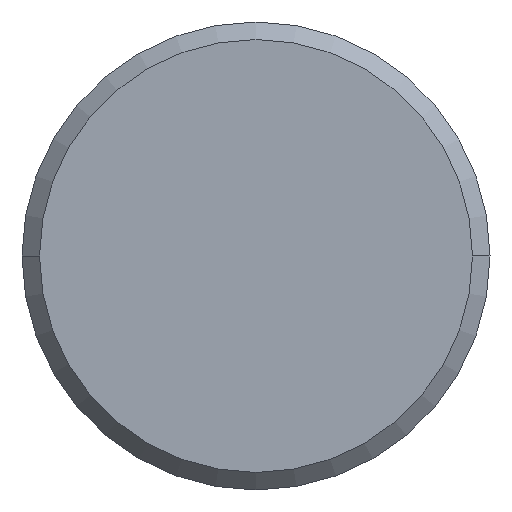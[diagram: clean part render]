
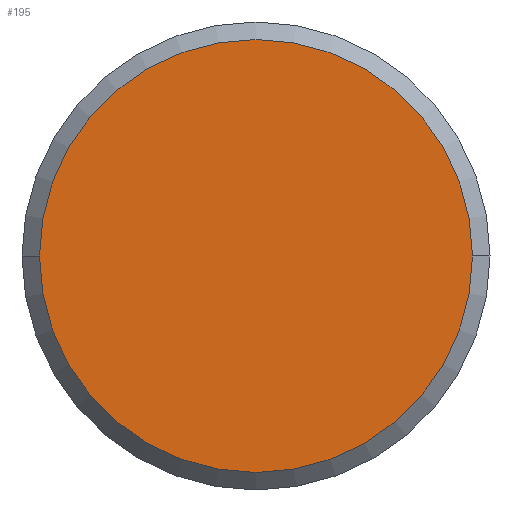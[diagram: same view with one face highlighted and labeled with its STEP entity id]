
A CAD part, left-side view. The second image highlights one B-rep face of the part: STEP entity #195.
In plain terms, the highlighted planar face has unit normal (-1, 0, 0).
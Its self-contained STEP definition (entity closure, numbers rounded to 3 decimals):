
#10 = DIRECTION ( 'NONE',  ( -1., 0., 0. ) ) ;
#39 = AXIS2_PLACEMENT_3D ( 'NONE', #135, #314, #164 ) ;
#47 = AXIS2_PLACEMENT_3D ( 'NONE', #311, #10, #220 ) ;
#57 = AXIS2_PLACEMENT_3D ( 'NONE', #266, #99, #289 ) ;
#67 = PLANE ( 'NONE',  #47 ) ;
#94 = ORIENTED_EDGE ( 'NONE', *, *, #221, .F. ) ;
#99 = DIRECTION ( 'NONE',  ( 1., 0., 0. ) ) ;
#124 = ORIENTED_EDGE ( 'NONE', *, *, #187, .F. ) ;
#133 = CIRCLE ( 'NONE', #57, 3.7 ) ;
#135 = CARTESIAN_POINT ( 'NONE',  ( -46., 0., 0. ) ) ;
#164 = DIRECTION ( 'NONE',  ( 0., 1., 0. ) ) ;
#178 = VERTEX_POINT ( 'NONE', #189 ) ;
#187 = EDGE_CURVE ( 'NONE', #346, #178, #133, .T. ) ;
#189 = CARTESIAN_POINT ( 'NONE',  ( -46., -3.7, 0. ) ) ;
#193 = CIRCLE ( 'NONE', #39, 3.7 ) ;
#195 = ADVANCED_FACE ( 'NONE', ( #330 ), #67, .T. ) ;
#200 = CARTESIAN_POINT ( 'NONE',  ( -46., 3.7, 0. ) ) ;
#220 = DIRECTION ( 'NONE',  ( 0., -1., 0. ) ) ;
#221 = EDGE_CURVE ( 'NONE', #178, #346, #193, .T. ) ;
#266 = CARTESIAN_POINT ( 'NONE',  ( -46., 0., 0. ) ) ;
#289 = DIRECTION ( 'NONE',  ( 0., 1., 0. ) ) ;
#311 = CARTESIAN_POINT ( 'NONE',  ( -46., 0., 0. ) ) ;
#314 = DIRECTION ( 'NONE',  ( 1., 0., 0. ) ) ;
#330 = FACE_OUTER_BOUND ( 'NONE', #340, .T. ) ;
#340 = EDGE_LOOP ( 'NONE', ( #124, #94 ) ) ;
#346 = VERTEX_POINT ( 'NONE', #200 ) ;
